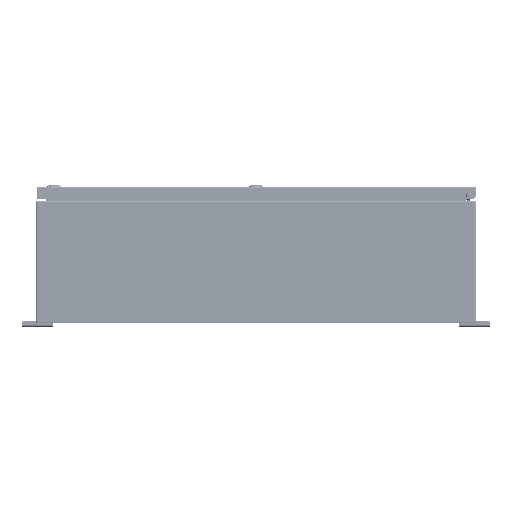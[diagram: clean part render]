
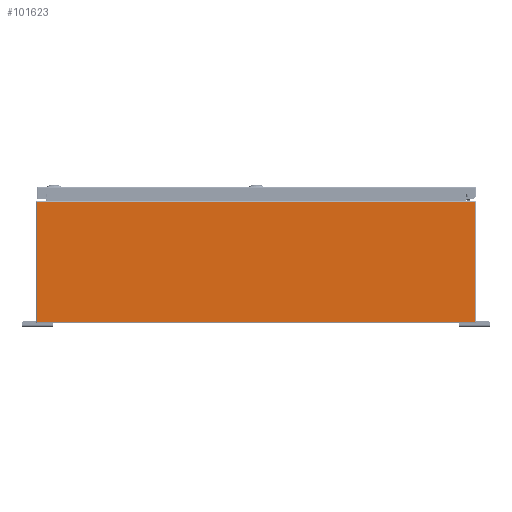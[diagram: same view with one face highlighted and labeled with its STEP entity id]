
A CAD part, left-side view. The second image highlights one B-rep face of the part: STEP entity #101623.
In plain terms, the highlighted planar face has unit normal (-1, 0, 0).
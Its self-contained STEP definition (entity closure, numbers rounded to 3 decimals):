
#5950=PLANE('',#108943);
#8579=LINE('',#145733,#16645);
#8580=LINE('',#145737,#16646);
#8581=LINE('',#145739,#16647);
#8582=LINE('',#145741,#16648);
#8583=LINE('',#145743,#16649);
#8584=LINE('',#145744,#16650);
#16645=VECTOR('',#118642,0.394);
#16646=VECTOR('',#118647,0.394);
#16647=VECTOR('',#118648,0.394);
#16648=VECTOR('',#118649,0.394);
#16649=VECTOR('',#118650,0.394);
#16650=VECTOR('',#118651,0.394);
#26362=FACE_OUTER_BOUND('',#32392,.T.);
#32392=EDGE_LOOP('',(#69279,#69280,#69281,#69282,#69283,#69284));
#43359=VERTEX_POINT('',#145715);
#43366=VERTEX_POINT('',#145732);
#43367=VERTEX_POINT('',#145736);
#43368=VERTEX_POINT('',#145738);
#43369=VERTEX_POINT('',#145740);
#43370=VERTEX_POINT('',#145742);
#53452=EDGE_CURVE('',#43359,#43366,#8579,.T.);
#53454=EDGE_CURVE('',#43367,#43359,#8580,.T.);
#53455=EDGE_CURVE('',#43367,#43368,#8581,.T.);
#53456=EDGE_CURVE('',#43369,#43368,#8582,.T.);
#53457=EDGE_CURVE('',#43370,#43369,#8583,.T.);
#53458=EDGE_CURVE('',#43370,#43366,#8584,.T.);
#69279=ORIENTED_EDGE('',*,*,#53454,.F.);
#69280=ORIENTED_EDGE('',*,*,#53455,.T.);
#69281=ORIENTED_EDGE('',*,*,#53456,.F.);
#69282=ORIENTED_EDGE('',*,*,#53457,.F.);
#69283=ORIENTED_EDGE('',*,*,#53458,.T.);
#69284=ORIENTED_EDGE('',*,*,#53452,.F.);
#101623=ADVANCED_FACE('',(#26362),#5950,.F.);
#108943=AXIS2_PLACEMENT_3D('',#145735,#118645,#118646);
#118642=DIRECTION('',(0.,0.,-1.));
#118645=DIRECTION('center_axis',(1.,0.,0.));
#118646=DIRECTION('ref_axis',(0.,0.,-1.));
#118647=DIRECTION('',(0.,-1.,0.));
#118648=DIRECTION('',(0.,1.,0.));
#118649=DIRECTION('',(0.,-1.,0.));
#118650=DIRECTION('',(0.,0.,1.));
#118651=DIRECTION('',(0.,-1.,0.));
#145715=CARTESIAN_POINT('',(-24.,-17.901,9.901));
#145732=CARTESIAN_POINT('',(-24.,-17.901,0.099));
#145733=CARTESIAN_POINT('',(-24.,-17.901,5.));
#145735=CARTESIAN_POINT('Origin',(-24.,0.,5.));
#145736=CARTESIAN_POINT('',(-24.,-17.126,9.901));
#145737=CARTESIAN_POINT('',(-24.,-8.975,9.901));
#145738=CARTESIAN_POINT('',(-24.,17.126,9.901));
#145739=CARTESIAN_POINT('',(-24.,8.955,9.901));
#145740=CARTESIAN_POINT('',(-24.,17.901,9.901));
#145741=CARTESIAN_POINT('',(-24.,-8.975,9.901));
#145742=CARTESIAN_POINT('',(-24.,17.901,0.099));
#145743=CARTESIAN_POINT('',(-24.,17.901,5.));
#145744=CARTESIAN_POINT('',(-24.,9.,0.099));
